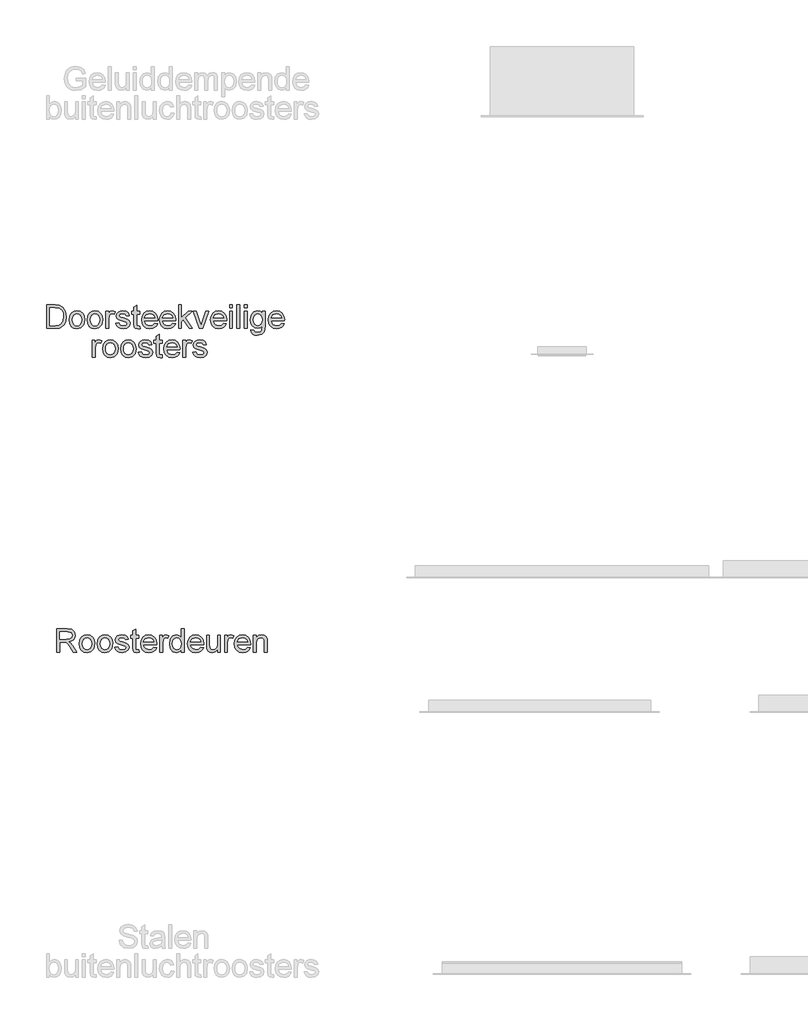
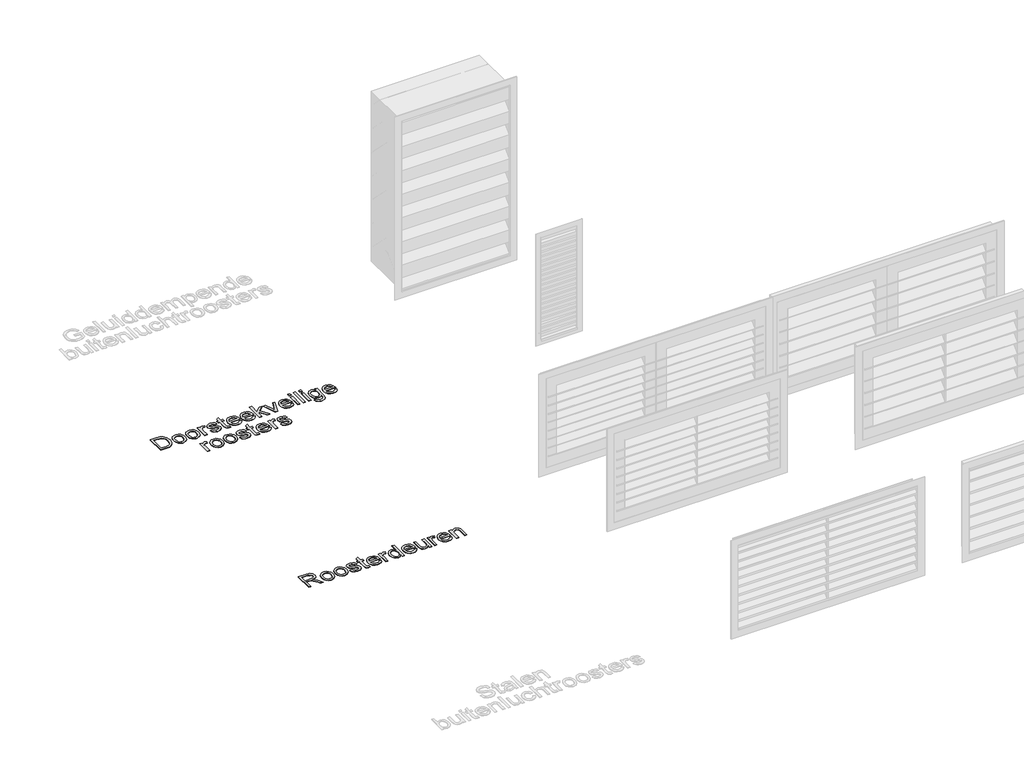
# One storey, part 3 of 10: 2 proxies.
"""IFC4 building model written with IfcOpenShell, lengths in millimetres."""

import ifcopenshell
import ifcopenshell.guid

model = None  # the IFC model being written
_history = None  # IfcOwnerHistory: only IFC2X3 demands one
_inside = {}  # id of a spatial element -> (the spatial element, [elements in it])
_under = {}  # id of a project, library or spatial element -> (it, [spatial elements below it])
_declared = {}  # id of a project -> (the project, [libraries it declares])
_typed = {}  # id of a type object -> (the type object, [elements of that type])
_made_of = {}  # id of a material, layer set ... -> (it, [elements and type objects made of it])


def new_model(schema):
    """Start an empty IFC model of exactly this schema.

    Asked for "IFC4X3", IfcOpenShell would pick the latest addendum, in which some entities
    have other attributes; the version numbers below select the first issue.
    IFC2X3 requires an IfcOwnerHistory on every rooted entity: one is made here for all.
    """
    global model, _history
    if schema == "IFC4X3":
        model = ifcopenshell.file(schema_version=(4, 3, 0, 0))
    else:
        model = ifcopenshell.file(schema=schema)
    _inside.clear()
    _under.clear()
    _declared.clear()
    _typed.clear()
    _made_of.clear()
    _history = None
    if model.schema == "IFC2X3":
        org = make("IfcOrganization", Name="unknown")
        user = make(
            "IfcPersonAndOrganization",
            ThePerson=make("IfcPerson", FamilyName="unknown"),
            TheOrganization=org,
        )
        app = make(
            "IfcApplication",
            ApplicationDeveloper=org,
            Version="unknown",
            ApplicationFullName="unknown",
            ApplicationIdentifier="unknown",
        )
        _history = make(
            "IfcOwnerHistory",
            OwningUser=user,
            OwningApplication=app,
            ChangeAction="ADDED",
            CreationDate=0,
        )
    return model


def make(cls, **values):
    """One entity of the class cls with the attributes given. An attribute that is None is left unset."""
    return model.create_entity(
        cls, **{name: value for name, value in values.items() if value is not None}
    )


def rooted(cls, **values):
    """An entity with a GlobalId (a new one), such as an element, a storey or a relation."""
    return make(cls, GlobalId=ifcopenshell.guid.new(), OwnerHistory=_history, **values)


def si_unit(unit_type, name, prefix=None):
    """IfcSIUnit, for example si_unit("LENGTHUNIT", "METRE", prefix="MILLI")."""
    return make("IfcSIUnit", UnitType=unit_type, Prefix=prefix, Name=name)


def assignment(units):
    """IfcUnitAssignment: the units of a project."""
    return None if units is None else make("IfcUnitAssignment", Units=units)


def point(xyz):
    """IfcCartesianPoint."""
    return None if xyz is None else make("IfcCartesianPoint", Coordinates=xyz)


def direction(xyz):
    """IfcDirection."""
    return None if xyz is None else make("IfcDirection", DirectionRatios=xyz)


def frame(location, z_axis=None, x_axis=None):
    """IfcAxis2Placement3D, a coordinate frame: its origin and axes. An axis left out is left unset."""
    return make(
        "IfcAxis2Placement3D",
        Location=point(location),
        Axis=direction(z_axis),
        RefDirection=direction(x_axis),
    )


def origin():
    """The frame at (0, 0, 0) with its axes left unset."""
    return frame((0.0, 0.0, 0.0))


def origin_with_axes():
    """The frame at (0, 0, 0) with the z axis (0, 0, 1) and the x axis (1, 0, 0) written out."""
    return frame((0.0, 0.0, 0.0), z_axis=(0.0, 0.0, 1.0), x_axis=(1.0, 0.0, 0.0))


def place(relative_to, where):
    """IfcLocalPlacement: puts the frame where relative to a parent placement (None: the world)."""
    return make(
        "IfcLocalPlacement", PlacementRelTo=relative_to, RelativePlacement=where
    )


def context(
    kind, dimensions, precision=None, world=None, true_north=None, identifier=None
):
    """IfcGeometricRepresentationContext, for example the 3D "Model" context."""
    return make(
        "IfcGeometricRepresentationContext",
        ContextIdentifier=identifier,
        ContextType=kind,
        CoordinateSpaceDimension=dimensions,
        Precision=precision,
        WorldCoordinateSystem=world,
        TrueNorth=true_north,
    )


def project(units=None, contexts=None):
    """IfcProject with its units and contexts."""
    return rooted(
        "IfcProject",
        Name="project",
        RepresentationContexts=contexts,
        UnitsInContext=assignment(units),
    )


def spatial(cls, under=None, at=None, **own):
    """A site, building, storey or space (cls), placed at a placement, below another one or the project."""
    s = rooted(cls, ObjectPlacement=at, **own)
    if under is not None:
        _under.setdefault(under.id(), (under, []))[1].append(s)
    return s


def polyline(points):
    """IfcPolyline through the points."""
    return make("IfcPolyline", Points=[point(p) for p in points])


def outline(outer, holes=None, kind="AREA"):
    """IfcArbitraryClosedProfileDef: a profile drawn as a closed curve; with holes, ...WithVoids."""
    if holes is None:
        return make("IfcArbitraryClosedProfileDef", ProfileType=kind, OuterCurve=outer)
    return make(
        "IfcArbitraryProfileDefWithVoids",
        ProfileType=kind,
        OuterCurve=outer,
        InnerCurves=holes,
    )


def extrude(swept, where, along, depth):
    """IfcExtrudedAreaSolid: the profile swept, set in the frame where, extruded along a direction by depth."""
    return make(
        "IfcExtrudedAreaSolid",
        SweptArea=swept,
        Position=where,
        ExtrudedDirection=direction(along),
        Depth=depth,
    )


def shape(context_of_items, identifier, shape_type, items):
    """IfcShapeRepresentation: the items that make up one representation, for example the "Body"."""
    return make(
        "IfcShapeRepresentation",
        ContextOfItems=context_of_items,
        RepresentationIdentifier=identifier,
        RepresentationType=shape_type,
        Items=items,
    )


def made_of(thing, what):
    """Note that an element or type object is made of a material, layer set ...; save() writes the relation."""
    if what is not None:
        _made_of.setdefault(what.id(), (what, []))[1].append(thing)
    return thing


def element(
    cls,
    number,
    at=None,
    inside=None,
    cuts=None,
    type_object=None,
    material=None,
    context=None,
    identifier="Body",
    shape_type=None,
    held_by="IfcProductDefinitionShape",
    body=None,
    shapes=None,
    **own,
):
    """One element of the class cls, such as IfcWall. Its Tag is "e" and its number.

    at: its placement. inside: the storey or other place that contains it. cuts: it is an
    opening in that element (IfcRelVoidsElement). A single representation is given by context,
    identifier, shape_type and body (its items); several are given by shapes. held_by: the class
    of the entity that holds the representations. save() writes the other relations.
    """
    e = rooted(cls, Tag="e%d" % number, ObjectPlacement=at, **own)
    if body is not None:
        shapes = [shape(context, identifier, shape_type, body)]
    if shapes is not None:
        e.Representation = make(held_by, Representations=shapes)
    if inside is not None:
        _inside.setdefault(inside.id(), (inside, []))[1].append(e)
    if cuts is not None:
        rooted(
            "IfcRelVoidsElement", RelatingBuildingElement=cuts, RelatedOpeningElement=e
        )
    if type_object is not None:
        _typed.setdefault(type_object.id(), (type_object, []))[1].append(e)
    return made_of(e, material)


def aggregate(whole, parts):
    """IfcRelAggregates: a whole, such as a stair, and the parts it consists of."""
    return rooted("IfcRelAggregates", RelatingObject=whole, RelatedObjects=parts)


def save(model, path):
    """Write the relations noted so far, then the file.

    IfcRelAggregates (storeys below a building ...), IfcRelContainedInSpatialStructure (elements
    in a storey), IfcRelDefinesByType, IfcRelAssociatesMaterial and IfcRelDeclares: one each for
    every whole, place, type object, material and project.
    """
    for whole, parts in _under.values():
        aggregate(whole, parts)
    for where, things in _inside.values():
        rooted(
            "IfcRelContainedInSpatialStructure",
            RelatedElements=things,
            RelatingStructure=where,
        )
    for kind, things in _typed.values():
        rooted("IfcRelDefinesByType", RelatedObjects=things, RelatingType=kind)
    for what, things in _made_of.values():
        rooted("IfcRelAssociatesMaterial", RelatedObjects=things, RelatingMaterial=what)
    for by, libraries in _declared.values():
        rooted("IfcRelDeclares", RelatingContext=by, RelatedDefinitions=libraries)
    model.write(path)


model = new_model("IFC4")

# Units and contexts
model_context = context("Model", 3, world=origin())
ifc_project = project(units=[si_unit("LENGTHUNIT", "METRE", prefix="MILLI")], contexts=[model_context])

# Site, building, storey
site = spatial("IfcSite", under=ifc_project)
building = spatial("IfcBuilding", under=site)
storey = spatial("IfcBuildingStorey", under=building, Name="Ventilatieroosters", Elevation=0.0)

# Proxies
placement = place(None, origin())
element("IfcBuildingElementProxy", 1, Name="100mm", ObjectType="100mm", at=placement, inside=storey, context=model_context, shape_type="SweptSolid", body=[
    extrude(outline(polyline([(-4894.7354076, -12773.1427175), (-4894.7354076, -12674.681179), (-4852.3075229, -12674.681179), (-4832.6080037, -12677.337429), (-4821.8387729, -12686.7364675), (-4817.8123306, -12701.6282944), (-4819.4799989, -12711.3278136), (-4824.4830037, -12719.368679), (-4832.9715854, -12725.2641117), (-4845.0959845, -12728.5273329), (-4838.1007922, -12733.7917559), (-4828.1248306, -12746.4600252), (-4811.7065614, -12773.1427175), (-4826.009446, -12773.1427175), (-4838.821946, -12752.7340636), (-4848.0767537, -12739.2244482), (-4854.5791576, -12732.8422367), (-4860.4325229, -12730.4984867), (-4867.571946, -12730.0657944), (-4882.4277152, -12730.0657944), (-4882.4277152, -12773.1427175), (-4894.7354076, -12773.1427175)]), holes=[polyline([(-4882.4277152, -12717.7581021), (-4854.8796383, -12717.7581021), (-4840.8291576, -12716.0153136), (-4832.8483883, -12710.4383905), (-4830.1200229, -12702.0850252), (-4835.3243499, -12691.243679), (-4851.7786768, -12686.9888713), (-4882.4277152, -12686.9888713), (-4882.4277152, -12717.7581021)])]), origin_with_axes(), (0.0, 0.0, 1.0), 2.0),
    extrude(outline(polyline([(-4800.8892537, -12736.9888713), (-4798.2269941, -12719.5549771), (-4790.2402152, -12707.3013713), (-4780.3724268, -12701.2977655), (-4768.5575229, -12699.2965636), (-4755.6278354, -12701.7334627), (-4745.3003114, -12709.0441598), (-4738.5304797, -12720.6517319), (-4736.2738691, -12735.9792559), (-4740.2642537, -12757.8782944), (-4751.8868499, -12770.2701213), (-4768.5575229, -12774.681179), (-4781.6434604, -12772.2532944), (-4791.9589652, -12764.9696405), (-4798.6566816, -12753.118679), (-4800.8892537, -12736.9888713)]), holes=[polyline([(-4788.5815614, -12736.9648329), (-4787.1572826, -12748.103655), (-4782.884446, -12756.0393521), (-4776.4541576, -12760.789953), (-4768.5575229, -12762.3734867), (-4760.696946, -12760.7809386), (-4754.2786768, -12756.0032944), (-4750.0058402, -12747.962429), (-4748.5815614, -12736.5802175), (-4750.0148547, -12725.7659146), (-4754.3147345, -12717.9383905), (-4760.7420181, -12713.1877896), (-4768.5575229, -12711.6042559), (-4776.4541576, -12713.18178), (-4782.884446, -12717.9143521), (-4787.1572826, -12725.8320204), (-4788.5815614, -12736.9648329)])]), origin_with_axes(), (0.0, 0.0, 1.0), 2.0),
    extrude(outline(polyline([(-4725.5046383, -12736.9888713), (-4722.8423787, -12719.5549771), (-4714.8555999, -12707.3013713), (-4704.9878114, -12701.2977655), (-4693.1729076, -12699.2965636), (-4680.2432201, -12701.7334627), (-4669.915696, -12709.0441598), (-4663.1458643, -12720.6517319), (-4660.8892537, -12735.9792559), (-4664.8796383, -12757.8782944), (-4676.5022345, -12770.2701213), (-4693.1729076, -12774.681179), (-4706.2588451, -12772.2532944), (-4716.5743499, -12764.9696405), (-4723.2720662, -12753.118679), (-4725.5046383, -12736.9888713)]), holes=[polyline([(-4713.196946, -12736.9648329), (-4711.7726672, -12748.103655), (-4707.4998306, -12756.0393521), (-4701.0695422, -12760.789953), (-4693.1729076, -12762.3734867), (-4685.3123306, -12760.7809386), (-4678.8940614, -12756.0032944), (-4674.6212249, -12747.962429), (-4673.196946, -12736.5802175), (-4674.6302393, -12725.7659146), (-4678.9301191, -12717.9383905), (-4685.3574027, -12713.1877896), (-4693.1729076, -12711.6042559), (-4701.0695422, -12713.18178), (-4707.4998306, -12717.9143521), (-4711.7726672, -12725.8320204), (-4713.196946, -12736.9648329)])]), origin_with_axes(), (0.0, 0.0, 1.0), 2.0),
    extrude(outline(polyline([(-4651.6584845, -12751.6042559), (-4639.3507922, -12750.0657944), (-4633.6536768, -12759.2004098), (-4620.6007922, -12762.3734867), (-4608.0527152, -12759.4648329), (-4603.9661768, -12752.6379098), (-4608.0767537, -12747.1090636), (-4620.7450229, -12743.5994482), (-4639.2786768, -12737.5778136), (-4647.3676191, -12730.5465636), (-4650.1200229, -12720.618679), (-4647.9084845, -12711.4480059), (-4641.8748306, -12704.4407944), (-4634.0503114, -12700.7989675), (-4623.4613691, -12699.2965636), (-4608.4854076, -12701.712429), (-4598.9661768, -12708.2508905), (-4594.7354076, -12719.2965636), (-4607.0430999, -12720.8350252), (-4611.6705037, -12714.0441598), (-4622.4998306, -12711.6042559), (-4634.2786768, -12713.9359867), (-4637.8123306, -12719.368679), (-4636.3459845, -12722.9504098), (-4631.7546383, -12725.6667559), (-4621.1536768, -12728.2869482), (-4603.0887729, -12734.0802175), (-4594.6993499, -12740.6427175), (-4591.6584845, -12751.3398329), (-4595.228196, -12763.118679), (-4605.5286768, -12771.6643521), (-4620.7690614, -12774.681179), (-4633.1789172, -12773.2268521), (-4642.2354076, -12768.8638713), (-4648.2810806, -12761.6403136), (-4651.6584845, -12751.6042559)])), origin_with_axes(), (0.0, 0.0, 1.0), 2.0),
    extrude(outline(polyline([(-4551.6584845, -12762.8782944), (-4550.1200229, -12773.5032944), (-4559.3267537, -12774.681179), (-4569.6392537, -12772.6379098), (-4574.7834845, -12767.2773329), (-4576.2738691, -12753.3109867), (-4576.2738691, -12713.1427175), (-4585.5046383, -12713.1427175), (-4585.5046383, -12700.8350252), (-4576.2738691, -12700.8350252), (-4576.2738691, -12683.2629098), (-4563.9661768, -12676.0273329), (-4563.9661768, -12700.8350252), (-4551.6584845, -12700.8350252), (-4551.6584845, -12713.1427175), (-4563.9661768, -12713.1427175), (-4563.9661768, -12752.9504098), (-4563.3171383, -12759.2965636), (-4561.2137729, -12761.5441598), (-4557.0190614, -12762.3734867), (-4551.6584845, -12762.8782944)])), origin_with_axes(), (0.0, 0.0, 1.0), 2.0),
    extrude(outline(polyline([(-4488.7257922, -12751.6042559), (-4476.6584845, -12753.1427175), (-4481.0064412, -12762.2352655), (-4487.9445422, -12769.0321405), (-4497.3165374, -12773.2689194), (-4508.9661768, -12774.681179), (-4523.4072826, -12772.24428), (-4534.5190614, -12764.9335829), (-4541.6043979, -12753.2238473), (-4543.9661768, -12737.5898329), (-4541.5803595, -12721.4299771), (-4534.4229076, -12709.3446405), (-4523.4613691, -12701.8085829), (-4509.6632922, -12699.2965636), (-4496.2949027, -12701.8025732), (-4485.6128114, -12709.3206021), (-4478.6086047, -12721.3819002), (-4476.2738691, -12737.5177175), (-4476.3459845, -12740.8350252), (-4531.6584845, -12740.8350252), (-4529.5280758, -12750.0477655), (-4524.5791576, -12756.8206021), (-4508.7257922, -12762.3734867), (-4496.6584845, -12759.8013713), (-4488.7257922, -12751.6042559)]), holes=[polyline([(-4531.6584845, -12728.5273329), (-4488.5815614, -12728.5273329), (-4493.509446, -12717.3734867), (-4500.6849268, -12713.0465636), (-4509.7113691, -12711.6042559), (-4524.8676191, -12716.2076213), (-4531.6584845, -12728.5273329)])]), origin_with_axes(), (0.0, 0.0, 1.0), 2.0),
    extrude(outline(polyline([(-4463.9661768, -12773.1427175), (-4463.9661768, -12700.8350252), (-4453.196946, -12700.8350252), (-4453.196946, -12711.5321405), (-4445.5527152, -12701.6763713), (-4437.8604076, -12699.2965636), (-4425.5046383, -12703.0946405), (-4429.6152152, -12714.1282944), (-4438.2690614, -12711.6042559), (-4445.228196, -12714.0321405), (-4449.6632922, -12720.7629098), (-4451.6584845, -12735.1379098), (-4451.6584845, -12773.1427175), (-4463.9661768, -12773.1427175)])), origin_with_axes(), (0.0, 0.0, 1.0), 2.0),
    extrude(outline(polyline([(-4373.196946, -12773.1427175), (-4373.196946, -12761.5321405), (-4381.3399749, -12771.3939194), (-4392.5959845, -12774.681179), (-4407.8363691, -12769.9215636), (-4418.6055999, -12756.6403136), (-4422.4277152, -12737.0609867), (-4418.9060806, -12717.4696405), (-4408.353196, -12703.9840636), (-4392.6440614, -12699.2965636), (-4381.2979076, -12702.649929), (-4373.196946, -12711.3638713), (-4373.196946, -12674.681179), (-4360.8892537, -12674.681179), (-4360.8892537, -12773.1427175), (-4373.196946, -12773.1427175)]), holes=[polyline([(-4410.1200229, -12737.0129098), (-4408.7318018, -12748.1457223), (-4404.5671383, -12756.0633905), (-4398.5154556, -12760.7959627), (-4391.4661768, -12762.3734867), (-4384.4199027, -12760.868078), (-4378.5214652, -12756.3518521), (-4374.5280758, -12748.7406742), (-4373.196946, -12737.9504098), (-4374.5521143, -12726.1535348), (-4378.6176191, -12717.9744482), (-4384.666297, -12713.196804), (-4391.9709845, -12711.6042559), (-4399.0923787, -12713.133703), (-4404.9277152, -12717.7220444), (-4408.821946, -12725.603655), (-4410.1200229, -12737.0129098)])]), origin_with_axes(), (0.0, 0.0, 1.0), 2.0),
    extrude(outline(polyline([(-4291.8027152, -12751.6042559), (-4279.7354076, -12753.1427175), (-4284.0833643, -12762.2352655), (-4291.0214652, -12769.0321405), (-4300.3934604, -12773.2689194), (-4312.0430999, -12774.681179), (-4326.4842056, -12772.24428), (-4337.5959845, -12764.9335829), (-4344.681321, -12753.2238473), (-4347.0430999, -12737.5898329), (-4344.6572826, -12721.4299771), (-4337.4998306, -12709.3446405), (-4326.5382922, -12701.8085829), (-4312.7402152, -12699.2965636), (-4299.3718258, -12701.8025732), (-4288.6897345, -12709.3206021), (-4281.6855277, -12721.3819002), (-4279.3507922, -12737.5177175), (-4279.4229076, -12740.8350252), (-4334.7354076, -12740.8350252), (-4332.6049989, -12750.0477655), (-4327.6560806, -12756.8206021), (-4311.8027152, -12762.3734867), (-4299.7354076, -12759.8013713), (-4291.8027152, -12751.6042559)]), holes=[polyline([(-4334.7354076, -12728.5273329), (-4291.6584845, -12728.5273329), (-4296.5863691, -12717.3734867), (-4303.7618499, -12713.0465636), (-4312.7882922, -12711.6042559), (-4327.9445422, -12716.2076213), (-4334.7354076, -12728.5273329)])]), origin_with_axes(), (0.0, 0.0, 1.0), 2.0),
    extrude(outline(polyline([(-4220.8892537, -12773.1427175), (-4220.8892537, -12760.7148329), (-4230.5286768, -12771.1895925), (-4243.1007922, -12774.681179), (-4254.6753114, -12772.2292559), (-4262.6560806, -12766.0754098), (-4266.321946, -12757.0129098), (-4267.0430999, -12745.5706021), (-4267.0430999, -12700.8350252), (-4254.7354076, -12700.8350252), (-4254.7354076, -12739.7773329), (-4253.9902152, -12752.3254098), (-4249.1224268, -12759.6931982), (-4239.9517537, -12762.3734867), (-4229.6753114, -12759.6331021), (-4222.884446, -12752.1691598), (-4220.8892537, -12738.4552175), (-4220.8892537, -12700.8350252), (-4208.5815614, -12700.8350252), (-4208.5815614, -12773.1427175), (-4220.8892537, -12773.1427175)])), origin_with_axes(), (0.0, 0.0, 1.0), 2.0),
    extrude(outline(polyline([(-4191.6584845, -12773.1427175), (-4191.6584845, -12700.8350252), (-4180.8892537, -12700.8350252), (-4180.8892537, -12711.5321405), (-4173.2450229, -12701.6763713), (-4165.5527152, -12699.2965636), (-4153.196946, -12703.0946405), (-4157.3075229, -12714.1282944), (-4165.9613691, -12711.6042559), (-4172.9205037, -12714.0321405), (-4177.3555999, -12720.7629098), (-4179.3507922, -12735.1379098), (-4179.3507922, -12773.1427175), (-4191.6584845, -12773.1427175)])), origin_with_axes(), (0.0, 0.0, 1.0), 2.0),
    extrude(outline(polyline([(-4094.8796383, -12751.6042559), (-4082.8123306, -12753.1427175), (-4087.1602874, -12762.2352655), (-4094.0983883, -12769.0321405), (-4103.4703835, -12773.2689194), (-4115.1200229, -12774.681179), (-4129.5611287, -12772.24428), (-4140.6729076, -12764.9335829), (-4147.7582441, -12753.2238473), (-4150.1200229, -12737.5898329), (-4147.7342056, -12721.4299771), (-4140.5767537, -12709.3446405), (-4129.6152152, -12701.8085829), (-4115.8171383, -12699.2965636), (-4102.4487489, -12701.8025732), (-4091.7666576, -12709.3206021), (-4084.7624508, -12721.3819002), (-4082.4277152, -12737.5177175), (-4082.4998306, -12740.8350252), (-4137.8123306, -12740.8350252), (-4135.681922, -12750.0477655), (-4130.7330037, -12756.8206021), (-4114.8796383, -12762.3734867), (-4102.8123306, -12759.8013713), (-4094.8796383, -12751.6042559)]), holes=[polyline([(-4137.8123306, -12728.5273329), (-4094.7354076, -12728.5273329), (-4099.6632922, -12717.3734867), (-4106.8387729, -12713.0465636), (-4115.8652152, -12711.6042559), (-4131.0214652, -12716.2076213), (-4137.8123306, -12728.5273329)])]), origin_with_axes(), (0.0, 0.0, 1.0), 2.0),
    extrude(outline(polyline([(-4070.1200229, -12773.1427175), (-4070.1200229, -12700.8350252), (-4057.8123306, -12700.8350252), (-4057.8123306, -12710.931179), (-4048.4012729, -12702.2052175), (-4035.5527152, -12699.2965636), (-4023.9301191, -12701.6403136), (-4015.9974268, -12707.7941598), (-4012.3075229, -12716.8446405), (-4011.6584845, -12728.743679), (-4011.6584845, -12773.1427175), (-4023.9661768, -12773.1427175), (-4023.9661768, -12730.4023329), (-4025.384446, -12719.5129098), (-4030.3964652, -12713.7556982), (-4038.8459845, -12711.6042559), (-4052.1993499, -12716.4359867), (-4056.4090854, -12723.4371886), (-4057.8123306, -12734.7773329), (-4057.8123306, -12773.1427175), (-4070.1200229, -12773.1427175)])), origin_with_axes(), (0.0, 0.0, 1.0), 2.0),
])
element("IfcBuildingElementProxy", 2, Name="100mm", ObjectType="100mm", at=placement, inside=storey, context=model_context, shape_type="SweptSolid", body=[
    extrude(outline(polyline([(-4936.8648334, -11414.230195), (-4936.8648334, -11315.7686565), (-4902.8984872, -11315.7686565), (-4885.3263718, -11317.1869258), (-4870.855218, -11324.230195), (-4859.1965641, -11341.0571181), (-4855.3263718, -11364.4705796), (-4857.9465641, -11384.3383681), (-4864.6773334, -11398.6773104), (-4873.667718, -11407.6075988), (-4885.4345449, -11412.5475027), (-4901.2638718, -11414.230195), (-4936.8648334, -11414.230195)]), holes=[polyline([(-4924.5571411, -11401.9225027), (-4902.7782949, -11401.9225027), (-4886.9369488, -11400.1436565), (-4877.8023334, -11395.1196181), (-4870.3143526, -11382.8960604), (-4867.6340641, -11364.2782719), (-4868.9471651, -11350.8648104), (-4872.886468, -11340.9609642), (-4885.6629103, -11330.0475027), (-4903.1148334, -11328.0763488), (-4924.5571411, -11328.0763488), (-4924.5571411, -11401.9225027)])]), origin_with_axes(), (0.0, 0.0, 1.0), 2.0),
    extrude(outline(polyline([(-4843.0186795, -11378.0763488), (-4840.3564199, -11360.6424546), (-4832.3696411, -11348.3888488), (-4822.5018526, -11342.3852431), (-4810.6869488, -11340.3840411), (-4797.7572613, -11342.8209402), (-4787.4297372, -11350.1316373), (-4780.6599055, -11361.7392094), (-4778.4032949, -11377.0667334), (-4782.3936795, -11398.9657719), (-4794.0162757, -11411.3575988), (-4810.6869488, -11415.7686565), (-4823.7728863, -11413.3407719), (-4834.0883911, -11406.0571181), (-4840.7861074, -11394.2061565), (-4843.0186795, -11378.0763488)]), holes=[polyline([(-4830.7109872, -11378.0523104), (-4829.2867084, -11389.1911325), (-4825.0138718, -11397.1268296), (-4818.5835834, -11401.8774306), (-4810.6869488, -11403.4609642), (-4802.8263718, -11401.8684161), (-4796.4081026, -11397.0907719), (-4792.1352661, -11389.0499065), (-4790.7109872, -11377.667695), (-4792.1442805, -11366.8533921), (-4796.4441603, -11359.0258681), (-4802.871444, -11354.2752671), (-4810.6869488, -11352.6917334), (-4818.5835834, -11354.2692575), (-4825.0138718, -11359.0018296), (-4829.2867084, -11366.9194979), (-4830.7109872, -11378.0523104)])]), origin_with_axes(), (0.0, 0.0, 1.0), 2.0),
    extrude(outline(polyline([(-4767.6340641, -11378.0763488), (-4764.9718045, -11360.6424546), (-4756.9850257, -11348.3888488), (-4747.1172372, -11342.3852431), (-4735.3023334, -11340.3840411), (-4722.3726459, -11342.8209402), (-4712.0451218, -11350.1316373), (-4705.2752901, -11361.7392094), (-4703.0186795, -11377.0667334), (-4707.0090641, -11398.9657719), (-4718.6316603, -11411.3575988), (-4735.3023334, -11415.7686565), (-4748.3882709, -11413.3407719), (-4758.7037757, -11406.0571181), (-4765.401492, -11394.2061565), (-4767.6340641, -11378.0763488)]), holes=[polyline([(-4755.3263718, -11378.0523104), (-4753.902093, -11389.1911325), (-4749.6292565, -11397.1268296), (-4743.198968, -11401.8774306), (-4735.3023334, -11403.4609642), (-4727.4417565, -11401.8684161), (-4721.0234872, -11397.0907719), (-4716.7506507, -11389.0499065), (-4715.3263718, -11377.667695), (-4716.7596651, -11366.8533921), (-4721.0595449, -11359.0258681), (-4727.4868286, -11354.2752671), (-4735.3023334, -11352.6917334), (-4743.198968, -11354.2692575), (-4749.6292565, -11359.0018296), (-4753.902093, -11366.9194979), (-4755.3263718, -11378.0523104)])]), origin_with_axes(), (0.0, 0.0, 1.0), 2.0),
    extrude(outline(polyline([(-4689.1725257, -11414.230195), (-4689.1725257, -11341.9225027), (-4678.4032949, -11341.9225027), (-4678.4032949, -11352.6196181), (-4670.7590641, -11342.7638488), (-4663.0667565, -11340.3840411), (-4650.7109872, -11344.1821181), (-4654.8215641, -11355.2157719), (-4663.4754103, -11352.6917334), (-4670.4345449, -11355.1196181), (-4674.8696411, -11361.8503873), (-4676.8648334, -11376.2253873), (-4676.8648334, -11414.230195), (-4689.1725257, -11414.230195)])), origin_with_axes(), (0.0, 0.0, 1.0), 2.0),
    extrude(outline(polyline([(-4647.6340641, -11392.6917334), (-4635.3263718, -11391.1532719), (-4629.6292565, -11400.2878873), (-4616.5763718, -11403.4609642), (-4604.0282949, -11400.5523104), (-4599.9417565, -11393.7253873), (-4604.0523334, -11388.1965411), (-4616.7206026, -11384.6869258), (-4635.2542565, -11378.6652911), (-4643.3431988, -11371.6340411), (-4646.0956026, -11361.7061565), (-4643.8840641, -11352.5354834), (-4637.8504103, -11345.5282719), (-4630.0258911, -11341.886445), (-4619.4369488, -11340.3840411), (-4604.4609872, -11342.7999065), (-4594.9417565, -11349.3383681), (-4590.7109872, -11360.3840411), (-4603.0186795, -11361.9225027), (-4607.6460834, -11355.1316373), (-4618.4754103, -11352.6917334), (-4630.2542565, -11355.0234642), (-4633.7879103, -11360.4561565), (-4632.3215641, -11364.0378873), (-4627.730218, -11366.7542334), (-4617.1292565, -11369.3744258), (-4599.0643526, -11375.167695), (-4590.6749295, -11381.730195), (-4587.6340641, -11392.4273104), (-4591.2037757, -11404.2061565), (-4601.5042565, -11412.7518296), (-4616.7446411, -11415.7686565), (-4629.1544968, -11414.3143296), (-4638.2109872, -11409.9513488), (-4644.2566603, -11402.7277911), (-4647.6340641, -11392.6917334)])), origin_with_axes(), (0.0, 0.0, 1.0), 2.0),
    extrude(outline(polyline([(-4547.6340641, -11403.9657719), (-4546.0956026, -11414.5907719), (-4555.3023334, -11415.7686565), (-4565.6148334, -11413.7253873), (-4570.7590641, -11408.3648104), (-4572.2494488, -11394.3984642), (-4572.2494488, -11354.230195), (-4581.480218, -11354.230195), (-4581.480218, -11341.9225027), (-4572.2494488, -11341.9225027), (-4572.2494488, -11324.3503873), (-4559.9417565, -11317.1148104), (-4559.9417565, -11341.9225027), (-4547.6340641, -11341.9225027), (-4547.6340641, -11354.230195), (-4559.9417565, -11354.230195), (-4559.9417565, -11394.0378873), (-4559.292718, -11400.3840411), (-4557.1893526, -11402.6316373), (-4552.9946411, -11403.4609642), (-4547.6340641, -11403.9657719)])), origin_with_axes(), (0.0, 0.0, 1.0), 2.0),
    extrude(outline(polyline([(-4484.7013718, -11392.6917334), (-4472.6340641, -11394.230195), (-4476.9820209, -11403.3227431), (-4483.9201218, -11410.1196181), (-4493.292117, -11414.3563969), (-4504.9417565, -11415.7686565), (-4519.3828622, -11413.3317575), (-4530.4946411, -11406.0210604), (-4537.5799776, -11394.3113248), (-4539.9417565, -11378.6773104), (-4537.5559391, -11362.5174546), (-4530.3984872, -11350.4321181), (-4519.4369488, -11342.8960604), (-4505.6388718, -11340.3840411), (-4492.2704824, -11342.8900508), (-4481.5883911, -11350.4080796), (-4474.5841843, -11362.4693777), (-4472.2494488, -11378.605195), (-4472.3215641, -11381.9225027), (-4527.6340641, -11381.9225027), (-4525.5036555, -11391.1352431), (-4520.5547372, -11397.9080796), (-4504.7013718, -11403.4609642), (-4492.6340641, -11400.8888488), (-4484.7013718, -11392.6917334)]), holes=[polyline([(-4527.6340641, -11369.6148104), (-4484.5571411, -11369.6148104), (-4489.4850257, -11358.4609642), (-4496.6605065, -11354.1340411), (-4505.6869488, -11352.6917334), (-4520.8431988, -11357.2950988), (-4527.6340641, -11369.6148104)])]), origin_with_axes(), (0.0, 0.0, 1.0), 2.0),
    extrude(outline(polyline([(-4409.3167565, -11392.6917334), (-4397.2494488, -11394.230195), (-4401.5974055, -11403.3227431), (-4408.5355065, -11410.1196181), (-4417.9075016, -11414.3563969), (-4429.5571411, -11415.7686565), (-4443.9982468, -11413.3317575), (-4455.1100257, -11406.0210604), (-4462.1953622, -11394.3113248), (-4464.5571411, -11378.6773104), (-4462.1713238, -11362.5174546), (-4455.0138718, -11350.4321181), (-4444.0523334, -11342.8960604), (-4430.2542565, -11340.3840411), (-4416.885867, -11342.8900508), (-4406.2037757, -11350.4080796), (-4399.199569, -11362.4693777), (-4396.8648334, -11378.605195), (-4396.9369488, -11381.9225027), (-4452.2494488, -11381.9225027), (-4450.1190401, -11391.1352431), (-4445.1701218, -11397.9080796), (-4429.3167565, -11403.4609642), (-4417.2494488, -11400.8888488), (-4409.3167565, -11392.6917334)]), holes=[polyline([(-4452.2494488, -11369.6148104), (-4409.1725257, -11369.6148104), (-4414.1004103, -11358.4609642), (-4421.2758911, -11354.1340411), (-4430.3023334, -11352.6917334), (-4445.4585834, -11357.2950988), (-4452.2494488, -11369.6148104)])]), origin_with_axes(), (0.0, 0.0, 1.0), 2.0),
    extrude(outline(polyline([(-4384.5571411, -11414.230195), (-4384.5571411, -11315.7686565), (-4372.2494488, -11315.7686565), (-4372.2494488, -11368.6773104), (-4344.6532949, -11341.9225027), (-4327.6340641, -11341.9225027), (-4355.5667565, -11369.0138488), (-4326.0956026, -11414.230195), (-4340.4706026, -11414.230195), (-4364.3888718, -11377.5715411), (-4372.2494488, -11385.1917334), (-4372.2494488, -11414.230195), (-4384.5571411, -11414.230195)])), origin_with_axes(), (0.0, 0.0, 1.0), 2.0),
    extrude(outline(polyline([(-4297.5859872, -11414.230195), (-4323.0186795, -11341.9225027), (-4309.9898334, -11341.9225027), (-4294.5811795, -11385.2398104), (-4289.9417565, -11399.8071181), (-4285.3984872, -11386.0571181), (-4269.8936795, -11341.9225027), (-4256.8648334, -11341.9225027), (-4281.9850257, -11414.230195), (-4297.5859872, -11414.230195)])), origin_with_axes(), (0.0, 0.0, 1.0), 2.0),
    extrude(outline(polyline([(-4195.4706026, -11392.6917334), (-4183.4032949, -11394.230195), (-4187.7512516, -11403.3227431), (-4194.6893526, -11410.1196181), (-4204.0613478, -11414.3563969), (-4215.7109872, -11415.7686565), (-4230.152093, -11413.3317575), (-4241.2638718, -11406.0210604), (-4248.3492084, -11394.3113248), (-4250.7109872, -11378.6773104), (-4248.3251699, -11362.5174546), (-4241.167718, -11350.4321181), (-4230.2061795, -11342.8960604), (-4216.4081026, -11340.3840411), (-4203.0397132, -11342.8900508), (-4192.3576218, -11350.4080796), (-4185.3534151, -11362.4693777), (-4183.0186795, -11378.605195), (-4183.0907949, -11381.9225027), (-4238.4032949, -11381.9225027), (-4236.2728863, -11391.1352431), (-4231.323968, -11397.9080796), (-4215.4706026, -11403.4609642), (-4203.4032949, -11400.8888488), (-4195.4706026, -11392.6917334)]), holes=[polyline([(-4238.4032949, -11369.6148104), (-4195.3263718, -11369.6148104), (-4200.2542565, -11358.4609642), (-4207.4297372, -11354.1340411), (-4216.4561795, -11352.6917334), (-4231.6124295, -11357.2950988), (-4238.4032949, -11369.6148104)])]), origin_with_axes(), (0.0, 0.0, 1.0), 2.0),
    extrude(outline(polyline([(-4170.7109872, -11328.0763488), (-4170.7109872, -11315.7686565), (-4158.4032949, -11315.7686565), (-4158.4032949, -11328.0763488), (-4170.7109872, -11328.0763488)])), origin_with_axes(), (0.0, 0.0, 1.0), 2.0),
    extrude(outline(polyline([(-4170.7109872, -11414.230195), (-4170.7109872, -11341.9225027), (-4158.4032949, -11341.9225027), (-4158.4032949, -11414.230195), (-4170.7109872, -11414.230195)])), origin_with_axes(), (0.0, 0.0, 1.0), 2.0),
    extrude(outline(polyline([(-4139.9417565, -11414.230195), (-4139.9417565, -11315.7686565), (-4127.6340641, -11315.7686565), (-4127.6340641, -11414.230195), (-4139.9417565, -11414.230195)])), origin_with_axes(), (0.0, 0.0, 1.0), 2.0),
    extrude(outline(polyline([(-4109.1725257, -11328.0763488), (-4109.1725257, -11315.7686565), (-4096.8648334, -11315.7686565), (-4096.8648334, -11328.0763488), (-4109.1725257, -11328.0763488)])), origin_with_axes(), (0.0, 0.0, 1.0), 2.0),
    extrude(outline(polyline([(-4109.1725257, -11414.230195), (-4109.1725257, -11341.9225027), (-4096.8648334, -11341.9225027), (-4096.8648334, -11414.230195), (-4109.1725257, -11414.230195)])), origin_with_axes(), (0.0, 0.0, 1.0), 2.0),
    extrude(outline(polyline([(-4081.480218, -11420.3840411), (-4069.1725257, -11421.9225027), (-4065.1821411, -11428.4128873), (-4053.2350257, -11431.1532719), (-4040.6388718, -11428.0523104), (-4034.6292565, -11419.3503873), (-4033.7879103, -11404.9994258), (-4042.4537757, -11411.9225027), (-4053.0186795, -11414.230195), (-4065.7079824, -11411.5438969), (-4075.1701218, -11403.4850027), (-4081.0565401, -11391.6700988), (-4083.0186795, -11377.7157719), (-4079.4970449, -11358.6412527), (-4069.3047372, -11345.1436565), (-4053.6196411, -11340.3840411), (-4042.6400738, -11343.0763488), (-4033.7879103, -11351.1532719), (-4033.7879103, -11341.9225027), (-4021.480218, -11341.9225027), (-4021.480218, -11404.3503873), (-4024.8456026, -11428.2566373), (-4035.5066603, -11439.3744258), (-4053.4754103, -11443.4609642), (-4064.9267324, -11442.0216613), (-4073.9441603, -11437.7037527), (-4079.7284151, -11430.495219), (-4081.480218, -11420.3840411)]), holes=[polyline([(-4070.7109872, -11376.8744258), (-4069.3978863, -11388.1634883), (-4065.4585834, -11395.9249065), (-4059.5361074, -11400.4231036), (-4052.2734872, -11401.9225027), (-4045.0649536, -11400.4321181), (-4039.1124295, -11395.9609642), (-4035.1190401, -11388.2987046), (-4033.7879103, -11377.2350027), (-4035.1581026, -11366.5649306), (-4039.2686795, -11358.8816373), (-4045.308343, -11354.2392094), (-4052.4657949, -11352.6917334), (-4059.4940401, -11354.2151709), (-4065.386468, -11358.7854834), (-4069.3798574, -11366.354594), (-4070.7109872, -11376.8744258)])]), origin_with_axes(), (0.0, 0.0, 1.0), 2.0),
    extrude(outline(polyline([(-3952.3936795, -11392.6917334), (-3940.3263718, -11394.230195), (-3944.6743286, -11403.3227431), (-3951.6124295, -11410.1196181), (-3960.9844247, -11414.3563969), (-3972.6340641, -11415.7686565), (-3987.0751699, -11413.3317575), (-3998.1869488, -11406.0210604), (-4005.2722853, -11394.3113248), (-4007.6340641, -11378.6773104), (-4005.2482468, -11362.5174546), (-3998.0907949, -11350.4321181), (-3987.1292565, -11342.8960604), (-3973.3311795, -11340.3840411), (-3959.9627901, -11342.8900508), (-3949.2806988, -11350.4080796), (-3942.276492, -11362.4693777), (-3939.9417565, -11378.605195), (-3940.0138718, -11381.9225027), (-3995.3263718, -11381.9225027), (-3993.1959632, -11391.1352431), (-3988.2470449, -11397.9080796), (-3972.3936795, -11403.4609642), (-3960.3263718, -11400.8888488), (-3952.3936795, -11392.6917334)]), holes=[polyline([(-3995.3263718, -11369.6148104), (-3952.2494488, -11369.6148104), (-3957.1773334, -11358.4609642), (-3964.3528141, -11354.1340411), (-3973.3792565, -11352.6917334), (-3988.5355065, -11357.2950988), (-3995.3263718, -11369.6148104)])]), origin_with_axes(), (0.0, 0.0, 1.0), 2.0),
    extrude(outline(polyline([(-4746.0956026, -11535.7686565), (-4746.0956026, -11463.4609642), (-4735.3263718, -11463.4609642), (-4735.3263718, -11474.1580796), (-4727.6821411, -11464.3023104), (-4719.9898334, -11461.9225027), (-4707.6340641, -11465.7205796), (-4711.7446411, -11476.7542334), (-4720.3984872, -11474.230195), (-4727.3576218, -11476.6580796), (-4731.792718, -11483.3888488), (-4733.7879103, -11497.7638488), (-4733.7879103, -11535.7686565), (-4746.0956026, -11535.7686565)])), origin_with_axes(), (0.0, 0.0, 1.0), 2.0),
    extrude(outline(polyline([(-4703.0186795, -11499.6148104), (-4700.3564199, -11482.1809161), (-4692.3696411, -11469.9273104), (-4682.5018526, -11463.9237046), (-4670.6869488, -11461.9225027), (-4657.7572613, -11464.3594017), (-4647.4297372, -11471.6700988), (-4640.6599055, -11483.2776709), (-4638.4032949, -11498.605195), (-4642.3936795, -11520.5042334), (-4654.0162757, -11532.8960604), (-4670.6869488, -11537.3071181), (-4683.7728863, -11534.8792334), (-4694.0883911, -11527.5955796), (-4700.7861074, -11515.7446181), (-4703.0186795, -11499.6148104)]), holes=[polyline([(-4690.7109872, -11499.5907719), (-4689.2867084, -11510.729594), (-4685.0138718, -11518.6652911), (-4678.5835834, -11523.4158921), (-4670.6869488, -11524.9994258), (-4662.8263718, -11523.4068777), (-4656.4081026, -11518.6292334), (-4652.1352661, -11510.5883681), (-4650.7109872, -11499.2061565), (-4652.1442805, -11488.3918536), (-4656.4441603, -11480.5643296), (-4662.871444, -11475.8137286), (-4670.6869488, -11474.230195), (-4678.5835834, -11475.807719), (-4685.0138718, -11480.5402911), (-4689.2867084, -11488.4579594), (-4690.7109872, -11499.5907719)])]), origin_with_axes(), (0.0, 0.0, 1.0), 2.0),
    extrude(outline(polyline([(-4627.6340641, -11499.6148104), (-4624.9718045, -11482.1809161), (-4616.9850257, -11469.9273104), (-4607.1172372, -11463.9237046), (-4595.3023334, -11461.9225027), (-4582.3726459, -11464.3594017), (-4572.0451218, -11471.6700988), (-4565.2752901, -11483.2776709), (-4563.0186795, -11498.605195), (-4567.0090641, -11520.5042334), (-4578.6316603, -11532.8960604), (-4595.3023334, -11537.3071181), (-4608.3882709, -11534.8792334), (-4618.7037757, -11527.5955796), (-4625.401492, -11515.7446181), (-4627.6340641, -11499.6148104)]), holes=[polyline([(-4615.3263718, -11499.5907719), (-4613.902093, -11510.729594), (-4609.6292565, -11518.6652911), (-4603.198968, -11523.4158921), (-4595.3023334, -11524.9994258), (-4587.4417565, -11523.4068777), (-4581.0234872, -11518.6292334), (-4576.7506507, -11510.5883681), (-4575.3263718, -11499.2061565), (-4576.7596651, -11488.3918536), (-4581.0595449, -11480.5643296), (-4587.4868286, -11475.8137286), (-4595.3023334, -11474.230195), (-4603.198968, -11475.807719), (-4609.6292565, -11480.5402911), (-4613.902093, -11488.4579594), (-4615.3263718, -11499.5907719)])]), origin_with_axes(), (0.0, 0.0, 1.0), 2.0),
    extrude(outline(polyline([(-4553.7879103, -11514.230195), (-4541.480218, -11512.6917334), (-4535.7831026, -11521.8263488), (-4522.730218, -11524.9994258), (-4510.1821411, -11522.0907719), (-4506.0956026, -11515.2638488), (-4510.2061795, -11509.7350027), (-4522.8744488, -11506.2253873), (-4541.4081026, -11500.2037527), (-4549.4970449, -11493.1725027), (-4552.2494488, -11483.2446181), (-4550.0379103, -11474.073945), (-4544.0042565, -11467.0667334), (-4536.1797372, -11463.4249065), (-4525.5907949, -11461.9225027), (-4510.6148334, -11464.3383681), (-4501.0956026, -11470.8768296), (-4496.8648334, -11481.9225027), (-4509.1725257, -11483.4609642), (-4513.7999295, -11476.6700988), (-4524.6292565, -11474.230195), (-4536.4081026, -11476.5619258), (-4539.9417565, -11481.9946181), (-4538.4754103, -11485.5763488), (-4533.8840641, -11488.292695), (-4523.2831026, -11490.9128873), (-4505.2181988, -11496.7061565), (-4496.8287757, -11503.2686565), (-4493.7879103, -11513.9657719), (-4497.3576218, -11525.7446181), (-4507.6581026, -11534.2902911), (-4522.8984872, -11537.3071181), (-4535.308343, -11535.8527911), (-4544.3648334, -11531.4898104), (-4550.4105065, -11524.2662527), (-4553.7879103, -11514.230195)])), origin_with_axes(), (0.0, 0.0, 1.0), 2.0),
    extrude(outline(polyline([(-4453.7879103, -11525.5042334), (-4452.2494488, -11536.1292334), (-4461.4561795, -11537.3071181), (-4471.7686795, -11535.2638488), (-4476.9129103, -11529.9032719), (-4478.4032949, -11515.9369258), (-4478.4032949, -11475.7686565), (-4487.6340641, -11475.7686565), (-4487.6340641, -11463.4609642), (-4478.4032949, -11463.4609642), (-4478.4032949, -11445.8888488), (-4466.0956026, -11438.6532719), (-4466.0956026, -11463.4609642), (-4453.7879103, -11463.4609642), (-4453.7879103, -11475.7686565), (-4466.0956026, -11475.7686565), (-4466.0956026, -11515.5763488), (-4465.4465641, -11521.9225027), (-4463.3431988, -11524.1700988), (-4459.1484872, -11524.9994258), (-4453.7879103, -11525.5042334)])), origin_with_axes(), (0.0, 0.0, 1.0), 2.0),
    extrude(outline(polyline([(-4390.855218, -11514.230195), (-4378.7879103, -11515.7686565), (-4383.135867, -11524.8612046), (-4390.073968, -11531.6580796), (-4399.4459632, -11535.8948584), (-4411.0956026, -11537.3071181), (-4425.5367084, -11534.870219), (-4436.6484872, -11527.5595219), (-4443.7338238, -11515.8497863), (-4446.0956026, -11500.2157719), (-4443.7097853, -11484.0559161), (-4436.5523334, -11471.9705796), (-4425.5907949, -11464.4345219), (-4411.792718, -11461.9225027), (-4398.4243286, -11464.4285123), (-4387.7422372, -11471.9465411), (-4380.7380305, -11484.0078392), (-4378.4032949, -11500.1436565), (-4378.4754103, -11503.4609642), (-4433.7879103, -11503.4609642), (-4431.6575016, -11512.6737046), (-4426.7085834, -11519.4465411), (-4410.855218, -11524.9994258), (-4398.7879103, -11522.4273104), (-4390.855218, -11514.230195)]), holes=[polyline([(-4433.7879103, -11491.1532719), (-4390.7109872, -11491.1532719), (-4395.6388718, -11479.9994258), (-4402.8143526, -11475.6725027), (-4411.8407949, -11474.230195), (-4426.9970449, -11478.8335604), (-4433.7879103, -11491.1532719)])]), origin_with_axes(), (0.0, 0.0, 1.0), 2.0),
    extrude(outline(polyline([(-4366.0956026, -11535.7686565), (-4366.0956026, -11463.4609642), (-4355.3263718, -11463.4609642), (-4355.3263718, -11474.1580796), (-4347.6821411, -11464.3023104), (-4339.9898334, -11461.9225027), (-4327.6340641, -11465.7205796), (-4331.7446411, -11476.7542334), (-4340.3984872, -11474.230195), (-4347.3576218, -11476.6580796), (-4351.792718, -11483.3888488), (-4353.7879103, -11497.7638488), (-4353.7879103, -11535.7686565), (-4366.0956026, -11535.7686565)])), origin_with_axes(), (0.0, 0.0, 1.0), 2.0),
    extrude(outline(polyline([(-4324.5571411, -11514.230195), (-4312.2494488, -11512.6917334), (-4306.5523334, -11521.8263488), (-4293.4994488, -11524.9994258), (-4280.9513718, -11522.0907719), (-4276.8648334, -11515.2638488), (-4280.9754103, -11509.7350027), (-4293.6436795, -11506.2253873), (-4312.1773334, -11500.2037527), (-4320.2662757, -11493.1725027), (-4323.0186795, -11483.2446181), (-4320.8071411, -11474.073945), (-4314.7734872, -11467.0667334), (-4306.948968, -11463.4249065), (-4296.3600257, -11461.9225027), (-4281.3840641, -11464.3383681), (-4271.8648334, -11470.8768296), (-4267.6340641, -11481.9225027), (-4279.9417565, -11483.4609642), (-4284.5691603, -11476.6700988), (-4295.3984872, -11474.230195), (-4307.1773334, -11476.5619258), (-4310.7109872, -11481.9946181), (-4309.2446411, -11485.5763488), (-4304.6532949, -11488.292695), (-4294.0523334, -11490.9128873), (-4275.9874295, -11496.7061565), (-4267.5980065, -11503.2686565), (-4264.5571411, -11513.9657719), (-4268.1268526, -11525.7446181), (-4278.4273334, -11534.2902911), (-4293.667718, -11537.3071181), (-4306.0775738, -11535.8527911), (-4315.1340641, -11531.4898104), (-4321.1797372, -11524.2662527), (-4324.5571411, -11514.230195)])), origin_with_axes(), (0.0, 0.0, 1.0), 2.0),
])

save(model, "model.ifc")
